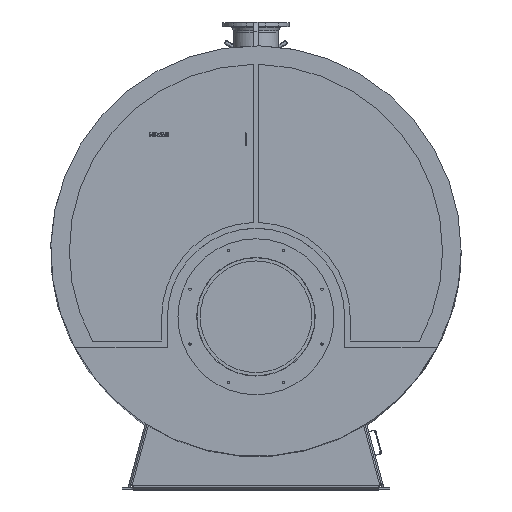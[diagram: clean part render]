
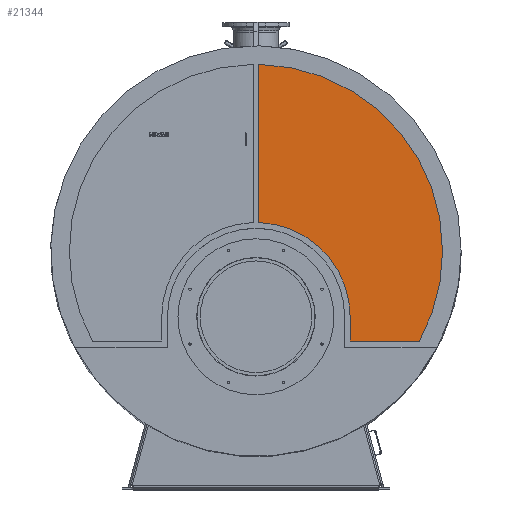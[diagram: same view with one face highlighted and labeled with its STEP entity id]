
A CAD part, top view. The second image highlights one B-rep face of the part: STEP entity #21344.
In plain terms, the highlighted planar face has unit normal (0, 0, 1).
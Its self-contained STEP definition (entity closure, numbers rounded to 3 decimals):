
#21097=CARTESIAN_POINT('',(15.,1130.305,313.));
#21098=VERTEX_POINT('',#21097);
#21099=CARTESIAN_POINT('',(15.,179.119,313.));
#21100=VERTEX_POINT('',#21099);
#21101=CARTESIAN_POINT('',(15.,1130.305,313.));
#21102=DIRECTION('',(-0.,-1.,0.));
#21103=VECTOR('',#21102,951.186);
#21104=LINE('',#21101,#21103);
#21105=EDGE_CURVE('',#21098,#21100,#21104,.T.);
#21128=CARTESIAN_POINT('',(20.783,173.123,313.));
#21129=VERTEX_POINT('',#21128);
#21130=CARTESIAN_POINT('',(573.5,-400.,313.));
#21131=VERTEX_POINT('',#21130);
#21132=CARTESIAN_POINT('',(0.,-400.,313.));
#21133=DIRECTION('',(0.,0.,-1.));
#21134=DIRECTION('',(1.,0.,0.));
#21135=AXIS2_PLACEMENT_3D('',#21132,#21133,#21134);
#21136=CIRCLE('',#21135,573.5);
#21137=EDGE_CURVE('',#21129,#21131,#21136,.T.);
#21161=CARTESIAN_POINT('',(573.5,-548.,313.));
#21162=VERTEX_POINT('',#21161);
#21169=CARTESIAN_POINT('',(573.5,-400.,313.));
#21170=DIRECTION('',(0.,-1.,0.));
#21171=VECTOR('',#21170,148.);
#21172=LINE('',#21169,#21171);
#21173=EDGE_CURVE('',#21131,#21162,#21172,.T.);
#21185=CARTESIAN_POINT('',(988.8,-554.,313.));
#21186=VERTEX_POINT('',#21185);
#21193=CARTESIAN_POINT('',(579.5,-554.,313.));
#21194=VERTEX_POINT('',#21193);
#21195=CARTESIAN_POINT('',(579.5,-554.,313.));
#21196=DIRECTION('',(1.,-0.,0.));
#21197=VECTOR('',#21196,409.3);
#21198=LINE('',#21195,#21197);
#21199=EDGE_CURVE('',#21194,#21186,#21198,.T.);
#21215=CARTESIAN_POINT('',(1136.5,-0.,313.));
#21216=VERTEX_POINT('',#21215);
#21224=CARTESIAN_POINT('',(21.111,1136.304,313.));
#21225=VERTEX_POINT('',#21224);
#21232=CARTESIAN_POINT('',(0.,0.,313.));
#21233=DIRECTION('',(0.,0.,1.));
#21234=DIRECTION('',(1.,0.,-0.));
#21235=AXIS2_PLACEMENT_3D('',#21232,#21233,#21234);
#21236=CIRCLE('',#21235,1136.5);
#21237=EDGE_CURVE('',#21216,#21225,#21236,.T.);
#21249=CARTESIAN_POINT('',(21.,1130.305,313.));
#21250=DIRECTION('',(-0.,-0.,1.));
#21251=DIRECTION('',(-1.,0.,0.));
#21252=AXIS2_PLACEMENT_3D('',#21249,#21250,#21251);
#21253=CIRCLE('',#21252,6.);
#21254=EDGE_CURVE('',#21225,#21098,#21253,.T.);
#21266=CARTESIAN_POINT('',(994.048,-550.908,313.));
#21267=VERTEX_POINT('',#21266);
#21274=CARTESIAN_POINT('',(988.8,-548.,313.));
#21275=DIRECTION('',(-0.,-0.,1.));
#21276=DIRECTION('',(-1.,0.,0.));
#21277=AXIS2_PLACEMENT_3D('',#21274,#21275,#21276);
#21278=CIRCLE('',#21277,6.);
#21279=EDGE_CURVE('',#21186,#21267,#21278,.T.);
#21292=CARTESIAN_POINT('',(579.5,-548.,313.));
#21293=DIRECTION('',(-0.,-0.,1.));
#21294=DIRECTION('',(-1.,0.,0.));
#21295=AXIS2_PLACEMENT_3D('',#21292,#21293,#21294);
#21296=CIRCLE('',#21295,6.);
#21297=EDGE_CURVE('',#21162,#21194,#21296,.T.);
#21310=CARTESIAN_POINT('',(21.,179.119,313.));
#21311=DIRECTION('',(-0.,-0.,1.));
#21312=DIRECTION('',(-1.,0.,0.));
#21313=AXIS2_PLACEMENT_3D('',#21310,#21311,#21312);
#21314=CIRCLE('',#21313,6.);
#21315=EDGE_CURVE('',#21100,#21129,#21314,.T.);
#21321=CARTESIAN_POINT('',(0.,1067.064,313.));
#21322=DIRECTION('',(0.,0.,1.));
#21323=DIRECTION('',(1.,0.,0.));
#21324=AXIS2_PLACEMENT_3D('',#21321,#21322,#21323);
#21325=PLANE('',#21324);
#21326=CARTESIAN_POINT('',(0.,0.,313.));
#21327=DIRECTION('',(0.,0.,1.));
#21328=DIRECTION('',(1.,0.,-0.));
#21329=AXIS2_PLACEMENT_3D('',#21326,#21327,#21328);
#21330=CIRCLE('',#21329,1136.5);
#21331=EDGE_CURVE('',#21267,#21216,#21330,.T.);
#21332=ORIENTED_EDGE('',*,*,#21331,.T.);
#21333=ORIENTED_EDGE('',*,*,#21237,.T.);
#21334=ORIENTED_EDGE('',*,*,#21254,.T.);
#21335=ORIENTED_EDGE('',*,*,#21105,.T.);
#21336=ORIENTED_EDGE('',*,*,#21315,.T.);
#21337=ORIENTED_EDGE('',*,*,#21137,.T.);
#21338=ORIENTED_EDGE('',*,*,#21173,.T.);
#21339=ORIENTED_EDGE('',*,*,#21297,.T.);
#21340=ORIENTED_EDGE('',*,*,#21199,.T.);
#21341=ORIENTED_EDGE('',*,*,#21279,.T.);
#21342=EDGE_LOOP('',(#21332,#21333,#21334,#21335,#21336,#21337,#21338,#21339,#21340,#21341));
#21343=FACE_BOUND('',#21342,.T.);
#21344=ADVANCED_FACE('',(#21343),#21325,.T.);
